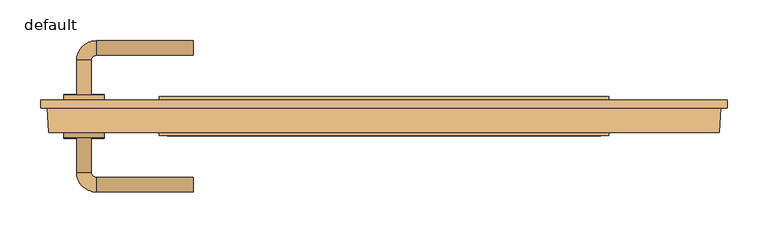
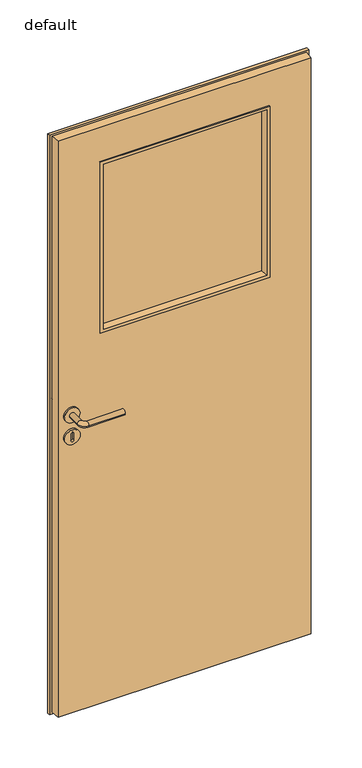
"""IFC4 building model written with IfcOpenShell, lengths in millimetres: door geometry, Panel_FIN_40D_Rebated_Glazed_05 : default."""

from ifc_helpers import new_model, si_unit, point, frame, frame_2d, origin, place, context, project, spatial, polyline, circle_curve, ellipse_curve, trimmed, segment, composite_curve, outline, extrude, faceted_brep, source, transform, mapped, element, save
from ifc_brep_helpers import plane_surface, cylinder_surface, revolved_surface, advanced_brep


def default_e111a01f(model_context):
    return source(origin(), model_context, "Body", "SolidModel", [
        extrude(outline(composite_curve([segment(trimmed(circle_curve(frame_2d((970.5, -368.5)), 25.0), [point((970.5, -343.5))], [point((970.5, -393.5))], False, "CARTESIAN"), True, "CONTINUOUS"), segment(trimmed(circle_curve(frame_2d((970.5, -368.5)), 25.0), [point((970.5, -393.5))], [point((970.5, -343.5))], False, "CARTESIAN"), True, "CONTINUOUS")], self_intersect=False), holes=[composite_curve([segment(trimmed(circle_curve(frame_2d((981.743411, -368.5)), 4.0), [point((981.743411, -372.5))], [point((981.743411, -364.5))], True, "CARTESIAN"), True, "CONTINUOUS"), segment(polyline([(981.743411, -364.5), (959.256589, -364.5)]), True, "CONTINUOUS"), segment(trimmed(circle_curve(frame_2d((959.256589, -368.5)), 4.0), [point((959.256589, -364.5))], [point((959.256589, -372.5))], True, "CARTESIAN"), True, "CONTINUOUS"), segment(polyline([(959.256589, -372.5), (981.743411, -372.5)]), True, "CONTINUOUS")], self_intersect=False)]), frame((0.0, -47.0, 0.0), z_axis=(0.0, 1.0, 0.0), x_axis=(0.0, 0.0, 1.0)), (0.0, 0.0, 1.0), 7.0),
        extrude(outline(composite_curve([segment(trimmed(circle_curve(frame_2d((970.5, -368.5)), 25.0), [point((970.5, -343.5))], [point((970.5, -393.5))], False, "CARTESIAN"), True, "CONTINUOUS"), segment(trimmed(circle_curve(frame_2d((970.5, -368.5)), 25.0), [point((970.5, -393.5))], [point((970.5, -343.5))], False, "CARTESIAN"), True, "CONTINUOUS")], self_intersect=False), holes=[composite_curve([segment(polyline([(959.256589, -372.5), (981.743411, -372.5)]), True, "CONTINUOUS"), segment(trimmed(circle_curve(frame_2d((981.743411, -368.5)), 4.0), [point((981.743411, -372.5))], [point((981.743411, -364.5))], True, "CARTESIAN"), True, "CONTINUOUS"), segment(polyline([(981.743411, -364.5), (959.256589, -364.5)]), True, "CONTINUOUS"), segment(trimmed(circle_curve(frame_2d((959.256589, -368.5)), 4.0), [point((959.256589, -364.5))], [point((959.256589, -372.5))], True, "CARTESIAN"), True, "CONTINUOUS")], self_intersect=False)]), frame((0.0, 0.0, 0.0), z_axis=(0.0, 1.0, 0.0), x_axis=(0.0, 0.0, 1.0)), (0.0, 0.0, 1.0), 7.0),
        advanced_brep(
        [(-393.5, -46.0, 1044.5), (-343.5, -46.0, 1044.5), (-359.5346073, -46.0, 1044.5), (-377.4653927, -46.0, 1044.5), (-393.5, -40.0, 1044.5), (-343.5, -40.0, 1044.5), (-377.4653927, -88.9627146, 1044.5), (-359.5346073, -88.9627146, 1044.5), (-353.5, -112.9281073, 1044.5), (-353.5, -94.9973219, 1044.5), (-234.5, -94.9973219, 1044.5), (-234.5, -112.9281073, 1044.5)],
        [
            (0, 1, circle_curve(frame((-368.5, -46.0, 1044.5), z_axis=(0.0, -1.0, 0.0), x_axis=(1.0, 0.0, 0.0)), 25.0)),
            (1, 0, circle_curve(frame((-368.5, -46.0, 1044.5), z_axis=(0.0, -1.0, 0.0), x_axis=(1.0, 0.0, 0.0)), 25.0)),
            (2, 3, circle_curve(frame((-368.5, -46.0, 1044.5), z_axis=(0.0, 1.0, 0.0), x_axis=(-1.0, 0.0, 0.0)), 8.9653927)),
            (3, 2, circle_curve(frame((-368.5, -46.0, 1044.5), z_axis=(0.0, 1.0, 0.0), x_axis=(-1.0, 0.0, 0.0)), 8.9653927)),
            (4, 5, circle_curve(frame((-368.5, -40.0, 1044.5), z_axis=(0.0, 1.0, 0.0), x_axis=(1.0, 0.0, 0.0)), 25.0)),
            (5, 4, circle_curve(frame((-368.5, -40.0, 1044.5), z_axis=(0.0, 1.0, 0.0), x_axis=(1.0, 0.0, 0.0)), 25.0)),
            (0, 4),
            (5, 1),
            (3, 6),
            (6, 7, circle_curve(frame((-368.5, -88.9627146, 1044.5), z_axis=(0.0, 1.0, 0.0), x_axis=(-1.0, 0.0, 0.0)), 8.9653927)),
            (7, 2),
            (7, 6, circle_curve(frame((-368.5, -88.9627146, 1044.5), z_axis=(0.0, 1.0, 0.0), x_axis=(-1.0, 0.0, 0.0)), 8.9653927)),
            (6, 8, circle_curve(frame((-353.5, -88.9627146, 1044.5), z_axis=(0.0, 0.0, 1.0), x_axis=(-1.0, 0.0, 0.0)), 23.9653927)),
            (8, 9, circle_curve(frame((-353.5, -103.9627146, 1044.5), z_axis=(-1.0, 0.0, 0.0), x_axis=(0.0, -1.0, 0.0)), 8.9653927)),
            (9, 7, circle_curve(frame((-353.5, -88.9627146, 1044.5), z_axis=(0.0, 0.0, -1.0), x_axis=(-1.0, 0.0, 0.0)), 6.0346073)),
            (9, 8, circle_curve(frame((-353.5, -103.9627146, 1044.5), z_axis=(-1.0, 0.0, 0.0), x_axis=(0.0, -1.0, 0.0)), 8.9653927)),
            (10, 11, circle_curve(frame((-234.5, -103.9627146, 1044.5), z_axis=(1.0, 0.0, 0.0), x_axis=(0.0, -1.0, 0.0)), 8.9653927)),
            (11, 10, circle_curve(frame((-234.5, -103.9627146, 1044.5), z_axis=(1.0, 0.0, 0.0), x_axis=(0.0, -1.0, 0.0)), 8.9653927)),
            (8, 11),
            (10, 9),
        ],
        [
            plane_surface(frame((-343.5, -46.0, 1044.5), z_axis=(0.0, -1.0, 0.0), x_axis=(0.0, 0.0, -1.0))),
            plane_surface(frame((-343.5, -40.0, 1044.5), z_axis=(0.0, 1.0, 0.0), x_axis=(0.0, 0.0, 1.0))),
            cylinder_surface(frame((-368.5, -46.0, 1044.5), z_axis=(0.0, 1.0, 0.0), x_axis=(1.0, 0.0, 0.0)), 25.0),
            cylinder_surface(frame((-368.5, -46.0, 1044.5), z_axis=(0.0, 1.0, 0.0), x_axis=(-1.0, 0.0, 0.0)), 8.9653927),
            revolved_surface(trimmed(ellipse_curve(frame((-368.5, -88.9627146, 1044.5), z_axis=(0.0, -1.0, 0.0), x_axis=(-1.0, 0.0, 0.0)), 8.9653927, 8.9653927), [point((-359.5346073, -88.9627146, 1044.5))], [point((-377.4653927, -88.9627146, 1044.5))], True, "CARTESIAN"), (-353.5, -88.9627146, 1044.5), (0.0, 0.0, -1.0)),
            revolved_surface(trimmed(ellipse_curve(frame((-368.5, -88.9627146, 1044.5), z_axis=(0.0, -1.0, 0.0), x_axis=(-1.0, 0.0, 0.0)), 8.9653927, 8.9653927), [point((-377.4653927, -88.9627146, 1044.5))], [point((-359.5346073, -88.9627146, 1044.5))], True, "CARTESIAN"), (-353.5, -88.9627146, 1044.5), (0.0, 0.0, -1.0)),
            plane_surface(frame((-234.5, -103.9627146, 1044.5), z_axis=(1.0, 0.0, 0.0), x_axis=(0.0, 0.0, 1.0))),
            cylinder_surface(frame((-353.5, -103.9627146, 1044.5), z_axis=(-1.0, 0.0, 0.0), x_axis=(0.0, -1.0, 0.0)), 8.9653927),
        ],
        [
            (0, [[1, 2], [3, 4]]),
            (1, [[5, 6]]),
            (2, [[7, -6, 8, -1]]),
            (2, [[-8, -5, -7, -2]]),
            (3, [[-4, 9, 10, 11]]),
            (3, [[12, -9, -3, -11]]),
            (4, [[13, 14, 15, -10]]),
            (5, [[-15, 16, -13, -12]]),
            (6, [[17, 18]]),
            (7, [[19, -17, 20, -14]]),
            (7, [[-20, -18, -19, -16]]),
        ],
    ),
        advanced_brep(
        [(-393.5, 6.0, 1044.5), (-343.5, 6.0, 1044.5), (-359.5346073, 6.0, 1044.5), (-377.4653927, 6.0, 1044.5), (-393.5, 0.0, 1044.5), (-343.5, 0.0, 1044.5), (-359.5346073, 48.9627146, 1044.5), (-377.4653927, 48.9627146, 1044.5), (-353.5, 54.9973219, 1044.5), (-353.5, 72.9281073, 1044.5), (-234.5, 54.9973219, 1044.5), (-234.5, 72.9281073, 1044.5)],
        [
            (0, 1, circle_curve(frame((-368.5, 6.0, 1044.5), z_axis=(0.0, 1.0, 0.0), x_axis=(1.0, 0.0, 0.0)), 25.0)),
            (1, 0, circle_curve(frame((-368.5, 6.0, 1044.5), z_axis=(0.0, 1.0, 0.0), x_axis=(1.0, 0.0, 0.0)), 25.0)),
            (2, 3, circle_curve(frame((-368.5, 6.0, 1044.5), z_axis=(0.0, -1.0, 0.0), x_axis=(-1.0, 0.0, 0.0)), 8.9653927)),
            (3, 2, circle_curve(frame((-368.5, 6.0, 1044.5), z_axis=(0.0, -1.0, 0.0), x_axis=(-1.0, 0.0, 0.0)), 8.9653927)),
            (4, 5, circle_curve(frame((-368.5, 0.0, 1044.5), z_axis=(0.0, -1.0, 0.0), x_axis=(1.0, 0.0, 0.0)), 25.0)),
            (5, 4, circle_curve(frame((-368.5, 0.0, 1044.5), z_axis=(0.0, -1.0, 0.0), x_axis=(1.0, 0.0, 0.0)), 25.0)),
            (1, 5),
            (4, 0),
            (2, 6),
            (6, 7, circle_curve(frame((-368.5, 48.9627146, 1044.5), z_axis=(0.0, -1.0, 0.0), x_axis=(-1.0, 0.0, 0.0)), 8.9653927)),
            (7, 3),
            (7, 6, circle_curve(frame((-368.5, 48.9627146, 1044.5), z_axis=(0.0, -1.0, 0.0), x_axis=(-1.0, 0.0, 0.0)), 8.9653927)),
            (6, 8, circle_curve(frame((-353.5, 48.9627146, 1044.5), z_axis=(0.0, 0.0, -1.0), x_axis=(-1.0, 0.0, 0.0)), 6.0346073)),
            (8, 9, circle_curve(frame((-353.5, 63.9627146, 1044.5), z_axis=(-1.0, 0.0, 0.0), x_axis=(0.0, 1.0, 0.0)), 8.9653927)),
            (9, 7, circle_curve(frame((-353.5, 48.9627146, 1044.5), z_axis=(0.0, 0.0, 1.0), x_axis=(-1.0, 0.0, 0.0)), 23.9653927)),
            (9, 8, circle_curve(frame((-353.5, 63.9627146, 1044.5), z_axis=(-1.0, 0.0, 0.0), x_axis=(0.0, 1.0, 0.0)), 8.9653927)),
            (10, 11, circle_curve(frame((-234.5, 63.9627146, 1044.5), z_axis=(1.0, 0.0, 0.0), x_axis=(0.0, 1.0, 0.0)), 8.9653927)),
            (11, 10, circle_curve(frame((-234.5, 63.9627146, 1044.5), z_axis=(1.0, 0.0, 0.0), x_axis=(0.0, 1.0, 0.0)), 8.9653927)),
            (8, 10),
            (11, 9),
        ],
        [
            plane_surface(frame((-343.5, 6.0, 1044.5), z_axis=(0.0, 1.0, 0.0), x_axis=(0.0, 0.0, -1.0))),
            plane_surface(frame((-343.5, 0.0, 1044.5), z_axis=(0.0, -1.0, 0.0), x_axis=(0.0, 0.0, 1.0))),
            cylinder_surface(frame((-368.5, 6.0, 1044.5), z_axis=(0.0, -1.0, 0.0), x_axis=(1.0, 0.0, 0.0)), 25.0),
            cylinder_surface(frame((-368.5, 6.0, 1044.5), z_axis=(0.0, -1.0, 0.0), x_axis=(-1.0, 0.0, 0.0)), 8.9653927),
            revolved_surface(trimmed(ellipse_curve(frame((-368.5, 48.9627146, 1044.5), z_axis=(0.0, -1.0, 0.0), x_axis=(-1.0, 0.0, 0.0)), 8.9653927, 8.9653927), [point((-359.5346073, 48.9627146, 1044.5))], [point((-377.4653927, 48.9627146, 1044.5))], True, "CARTESIAN"), (-353.5, 48.9627146, 1044.5), (0.0, 0.0, -1.0)),
            revolved_surface(trimmed(ellipse_curve(frame((-368.5, 48.9627146, 1044.5), z_axis=(0.0, -1.0, 0.0), x_axis=(-1.0, 0.0, 0.0)), 8.9653927, 8.9653927), [point((-377.4653927, 48.9627146, 1044.5))], [point((-359.5346073, 48.9627146, 1044.5))], True, "CARTESIAN"), (-353.5, 48.9627146, 1044.5), (0.0, 0.0, -1.0)),
            plane_surface(frame((-234.5, 63.9627146, 1044.5), z_axis=(1.0, 0.0, 0.0), x_axis=(0.0, 0.0, 1.0))),
            cylinder_surface(frame((-353.5, 63.9627146, 1044.5), z_axis=(-1.0, 0.0, 0.0), x_axis=(0.0, 1.0, 0.0)), 8.9653927),
        ],
        [
            (0, [[1, 2], [3, 4]]),
            (1, [[5, 6]]),
            (2, [[-2, 7, -5, 8]]),
            (2, [[-1, -8, -6, -7]]),
            (3, [[9, 10, 11, -3]]),
            (3, [[-9, -4, -11, 12]]),
            (4, [[-10, 13, 14, 15]]),
            (5, [[-12, -15, 16, -13]]),
            (6, [[17, 18]]),
            (7, [[-14, 19, -18, 20]]),
            (7, [[-16, -20, -17, -19]]),
        ],
    ),
        faceted_brep([(411.4021956, -40.0, 18.0), (411.4021956, -40.0, 1997.0), (-411.4021956, -40.0, 1997.0), (-411.4021956, -40.0, 18.0), (-271.5, -40.0, 1297.0), (-271.5, -40.0, 1876.0), (271.5, -40.0, 1876.0), (271.5, -40.0, 1297.0), (413.5, -10.0, 18.0), (413.5, -10.0, 1997.0), (-413.5, -10.0, 1997.0), (-413.5, -10.0, 18.0), (-421.5, 0.0, 2003.0), (421.5, 0.0, 2003.0), (421.5, 0.0, 12.0), (-421.5, 0.0, 12.0), (-271.5, 0.0, 1876.0), (-271.5, 0.0, 1297.0), (271.5, 0.0, 1297.0), (271.5, 0.0, 1876.0), (421.5, -10.0, 2003.0), (421.5, -10.0, 12.0), (-421.5, -10.0, 12.0), (-421.5, -10.0, 2003.0)], [[[0, 1, 2, 3], [4, 5, 6, 7]], [[1, 0, 8, 9]], [[3, 2, 10, 11]], [[11, 8, 0, 3]], [[12, 13, 14, 15], [16, 17, 18, 19]], [[14, 13, 20, 21]], [[15, 14, 21, 22]], [[12, 15, 22, 23]], [[22, 21, 20, 23], [11, 10, 9, 8]], [[13, 12, 23, 20]], [[9, 10, 2, 1]], [[16, 5, 4, 17]], [[17, 4, 7, 18]], [[18, 7, 6, 19]], [[5, 16, 19, 6]]]),
        faceted_brep([(-266.0, 4.0, 1870.5), (-261.5, -17.0, 1866.0), (-261.5, -17.0, 1307.0), (-266.0, 4.0, 1302.5), (-271.5, -16.2, 1876.0), (-271.5, -16.2, 1297.0), (-271.5, 0.0, 1876.0), (-271.5, 0.0, 1297.0), (-276.0, 0.0, 1880.5), (-276.0, 4.0, 1880.5), (-276.0, 4.0, 1292.5), (-276.0, 0.0, 1292.5), (261.5, -17.0, 1307.0), (266.0, 4.0, 1302.5), (271.5, -16.2, 1297.0), (271.5, 0.0, 1297.0), (276.0, 4.0, 1292.5), (276.0, 0.0, 1292.5), (261.5, -17.0, 1866.0), (266.0, 4.0, 1870.5), (271.5, -16.2, 1876.0), (271.5, 0.0, 1876.0), (276.0, 4.0, 1880.5), (276.0, 0.0, 1880.5)], [[[0, 1, 2, 3]], [[1, 4, 5, 2]], [[4, 6, 7, 5]], [[8, 9, 10, 11]], [[3, 2, 12, 13]], [[2, 5, 14, 12]], [[5, 7, 15, 14]], [[11, 10, 16, 17]], [[13, 12, 18, 19]], [[12, 14, 20, 18]], [[14, 15, 21, 20]], [[17, 16, 22, 23]], [[19, 18, 1, 0]], [[18, 20, 4, 1]], [[20, 21, 6, 4]], [[11, 17, 23, 8], [6, 21, 15, 7]], [[23, 22, 9, 8]], [[9, 22, 16, 10], [3, 13, 19, 0]]]),
        faceted_brep([(266.0, -44.0, 1870.5), (261.5, -23.0, 1866.0), (261.5, -23.0, 1307.0), (266.0, -44.0, 1302.5), (271.5, -23.8, 1876.0), (271.5, -23.8, 1297.0), (271.5, -40.0, 1876.0), (271.5, -40.0, 1297.0), (276.0, -40.0, 1880.5), (276.0, -44.0, 1880.5), (276.0, -44.0, 1292.5), (276.0, -40.0, 1292.5), (-261.5, -23.0, 1307.0), (-266.0, -44.0, 1302.5), (-271.5, -23.8, 1297.0), (-271.5, -40.0, 1297.0), (-276.0, -44.0, 1292.5), (-276.0, -40.0, 1292.5), (-261.5, -23.0, 1866.0), (-266.0, -44.0, 1870.5), (-271.5, -23.8, 1876.0), (-271.5, -40.0, 1876.0), (-276.0, -44.0, 1880.5), (-276.0, -40.0, 1880.5)], [[[0, 1, 2, 3]], [[1, 4, 5, 2]], [[4, 6, 7, 5]], [[8, 9, 10, 11]], [[3, 2, 12, 13]], [[2, 5, 14, 12]], [[5, 7, 15, 14]], [[11, 10, 16, 17]], [[13, 12, 18, 19]], [[12, 14, 20, 18]], [[14, 15, 21, 20]], [[17, 16, 22, 23]], [[19, 18, 1, 0]], [[18, 20, 4, 1]], [[20, 21, 6, 4]], [[11, 17, 23, 8], [6, 21, 15, 7]], [[23, 22, 9, 8]], [[9, 22, 16, 10], [3, 13, 19, 0]]]),
        extrude(outline(polyline([(-271.5, -17.0), (271.5, -17.0), (271.5, -23.0), (-271.5, -23.0), (-271.5, -17.0)])), frame((0.0, 0.0, 1297.0), z_axis=(0.0, 0.0, 1.0), x_axis=(1.0, 0.0, 0.0)), (0.0, 0.0, 1.0), 579.0),
    ])


if __name__ == "__main__":
    model = new_model("IFC4")
    model_context = context("Model", 3, world=origin())
    ifc_project = project(units=[si_unit("LENGTHUNIT", "METRE", prefix="MILLI")], contexts=[model_context])
    site = spatial("IfcSite", under=ifc_project)
    building = spatial("IfcBuilding", under=site)
    placement = place(None, origin())
    default_shape = default_e111a01f(model_context)
    element("IfcDoor", 1, ObjectType="Panel_FIN_40D_Rebated_Glazed_05 : default", at=placement, inside=building, context=model_context, shape_type="MappedRepresentation", body=[
        mapped(default_shape, transform((0.0, 0.0, 0.0), x_axis=(1.0, 0.0, 0.0), y_axis=(0.0, 1.0, 0.0), z_axis=(0.0, 0.0, 1.0))),
    ])
    save(model, "model.ifc")
